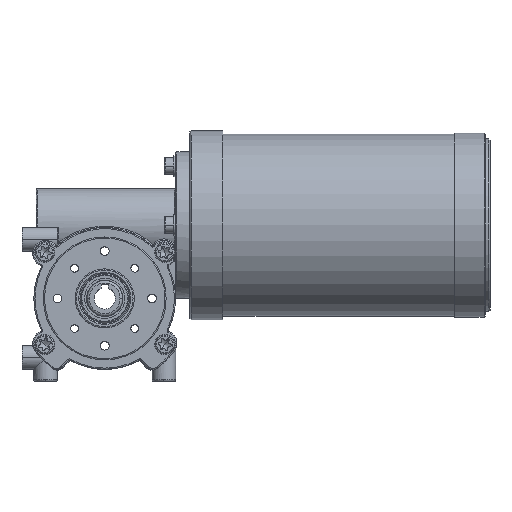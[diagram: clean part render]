
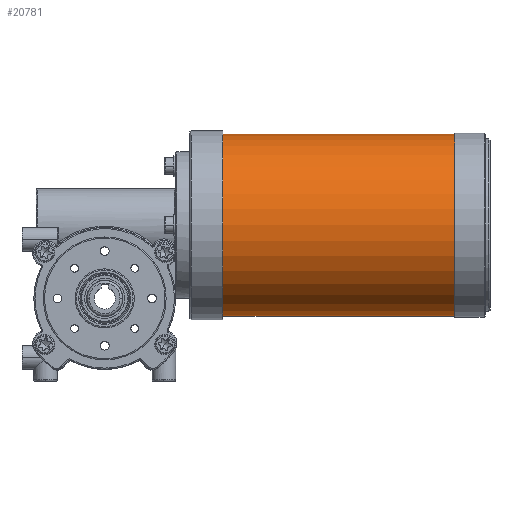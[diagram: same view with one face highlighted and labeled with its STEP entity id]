
A CAD part, top view. The second image highlights one B-rep face of the part: STEP entity #20781.
In plain terms, the highlighted cylindrical face has radius 38.5 mm (diameter 77 mm), a partial arc.
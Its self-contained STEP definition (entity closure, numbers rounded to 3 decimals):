
#1124 = VERTEX_POINT ( 'NONE', #9377 ) ;
#1723 = ORIENTED_EDGE ( 'NONE', *, *, #17426, .F. ) ;
#2556 = CARTESIAN_POINT ( 'NONE',  ( -47.394, 2.436, 0. ) ) ;
#3887 = CARTESIAN_POINT ( 'NONE',  ( 65.606, 2.436, 0. ) ) ;
#5155 = VERTEX_POINT ( 'NONE', #2556 ) ;
#6009 = DIRECTION ( 'NONE',  ( -1., 0., 0. ) ) ;
#6163 = DIRECTION ( 'NONE',  ( 0., -1., 0. ) ) ;
#7222 = CIRCLE ( 'NONE', #11358, 38.5 ) ;
#7313 = FACE_OUTER_BOUND ( 'NONE', #21076, .T. ) ;
#7967 = DIRECTION ( 'NONE',  ( 0., -1., 0. ) ) ;
#8432 = VERTEX_POINT ( 'NONE', #27753 ) ;
#9377 = CARTESIAN_POINT ( 'NONE',  ( 50.606, 79.436, 0. ) ) ;
#9513 = VERTEX_POINT ( 'NONE', #15751 ) ;
#10694 = ORIENTED_EDGE ( 'NONE', *, *, #17981, .T. ) ;
#11358 = AXIS2_PLACEMENT_3D ( 'NONE', #12228, #21185, #27557 ) ;
#11386 = AXIS2_PLACEMENT_3D ( 'NONE', #23715, #18752, #7967 ) ;
#12228 = CARTESIAN_POINT ( 'NONE',  ( -47.394, 40.936, 0. ) ) ;
#13620 = VECTOR ( 'NONE', #28363, 1000. ) ;
#14861 = LINE ( 'NONE', #3887, #18716 ) ;
#14913 = ORIENTED_EDGE ( 'NONE', *, *, #15723, .F. ) ;
#15718 = EDGE_CURVE ( 'NONE', #9513, #1124, #25238, .T. ) ;
#15723 = EDGE_CURVE ( 'NONE', #9513, #5155, #14861, .T. ) ;
#15751 = CARTESIAN_POINT ( 'NONE',  ( 50.606, 2.436, 0. ) ) ;
#17426 = EDGE_CURVE ( 'NONE', #5155, #8432, #7222, .T. ) ;
#17981 = EDGE_CURVE ( 'NONE', #1124, #8432, #26228, .T. ) ;
#18716 = VECTOR ( 'NONE', #18902, 1000. ) ;
#18752 = DIRECTION ( 'NONE',  ( -1., 0., 0. ) ) ;
#18902 = DIRECTION ( 'NONE',  ( -1., 0., 0. ) ) ;
#20781 = ADVANCED_FACE ( 'NONE', ( #7313 ), #22748, .T. ) ;
#21076 = EDGE_LOOP ( 'NONE', ( #23980, #10694, #1723, #14913 ) ) ;
#21185 = DIRECTION ( 'NONE',  ( -1., 0., 0. ) ) ;
#22631 = AXIS2_PLACEMENT_3D ( 'NONE', #27958, #6009, #6163 ) ;
#22748 = CYLINDRICAL_SURFACE ( 'NONE', #22631, 38.5 ) ;
#23715 = CARTESIAN_POINT ( 'NONE',  ( 50.606, 40.936, 0. ) ) ;
#23874 = CARTESIAN_POINT ( 'NONE',  ( 65.606, 79.436, 0. ) ) ;
#23980 = ORIENTED_EDGE ( 'NONE', *, *, #15718, .T. ) ;
#25238 = CIRCLE ( 'NONE', #11386, 38.5 ) ;
#26228 = LINE ( 'NONE', #23874, #13620 ) ;
#27557 = DIRECTION ( 'NONE',  ( 0., -1., 0. ) ) ;
#27753 = CARTESIAN_POINT ( 'NONE',  ( -47.394, 79.436, 0. ) ) ;
#27958 = CARTESIAN_POINT ( 'NONE',  ( 65.606, 40.936, 0. ) ) ;
#28363 = DIRECTION ( 'NONE',  ( -1., 0., 0. ) ) ;
